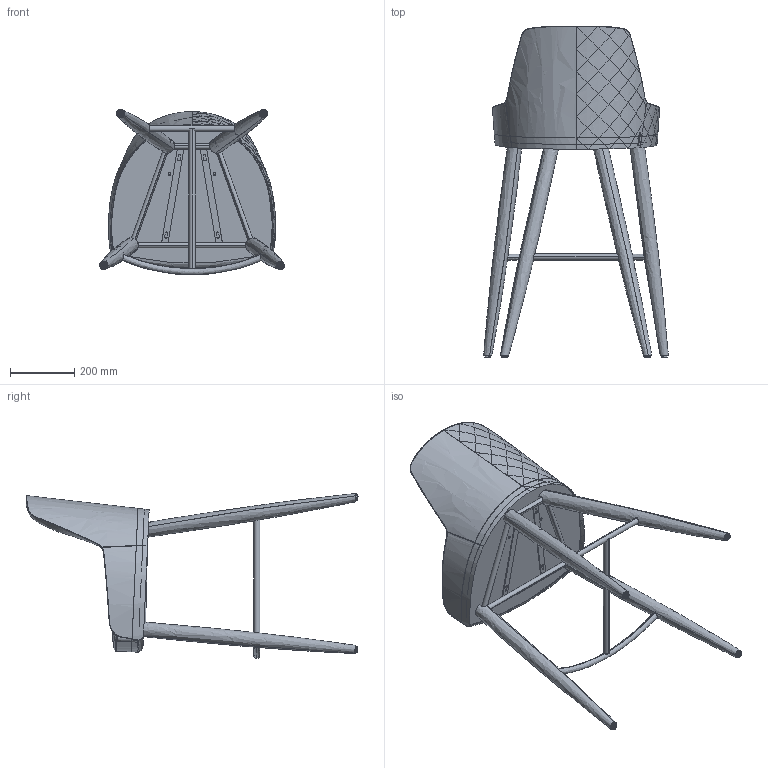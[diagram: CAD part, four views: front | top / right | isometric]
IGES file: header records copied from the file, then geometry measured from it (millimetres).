
Start section: SolidWorks IGES file using analytic representation for surfaces
Global section: file name: C:\Users\Design\Desktop\3d\GLOW - CONIC WOOD\027 Stool Conic Wood\Glow Stool - Conic Wood - v2.IGS; native system: SolidWorks 2016; preprocessor: SolidWorks 2016; author: Design; date: 160609.141304; units: millimetre
Bounding box: 575.16 x 1034 x 513.97 mm (x, y, z)
Surface area: 3662353.2 mm2 (no closed solid volume)
Topology: 0 solids, 0 shells, 4251 faces, 25617 edges, 23572 vertices
Faces by surface type: revolution 3747, bspline 504
